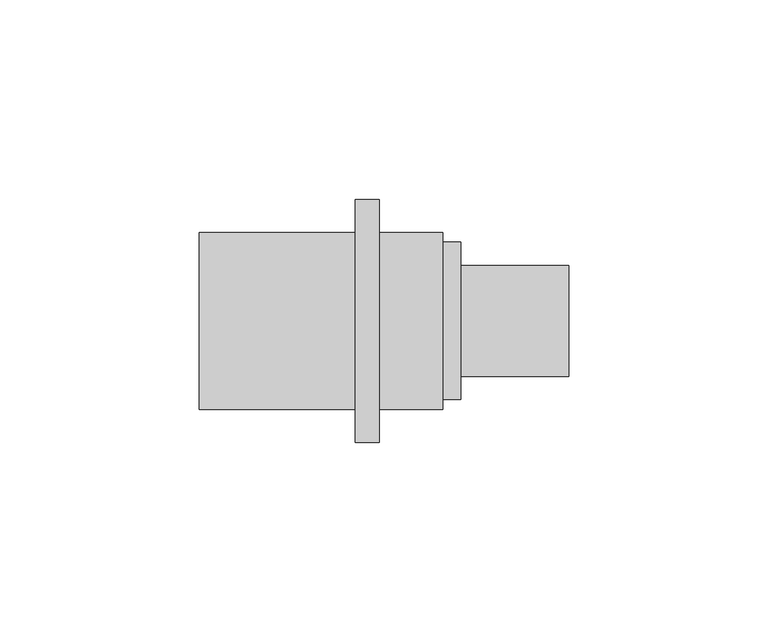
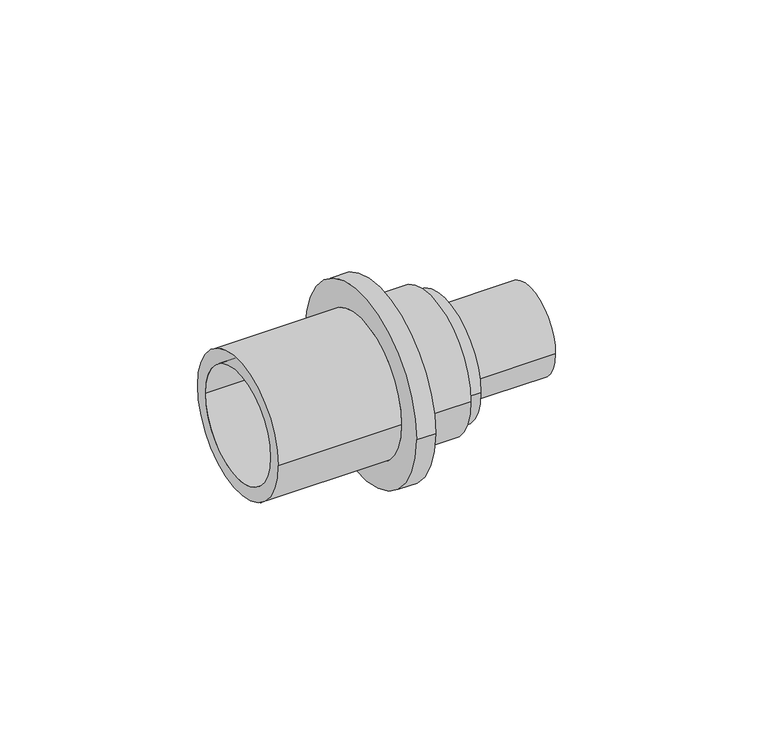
"""IFC4 building model written with IfcOpenShell, lengths in millimetres: pipe fitting geometry, Coupling transistion : C RE SDR11 LX."""

import ifcopenshell
import ifcopenshell.guid

model = None  # the IFC model being written
_history = None  # IfcOwnerHistory: only IFC2X3 demands one
_inside = {}  # id of a spatial element -> (the spatial element, [elements in it])
_under = {}  # id of a project, library or spatial element -> (it, [spatial elements below it])
_declared = {}  # id of a project -> (the project, [libraries it declares])
_typed = {}  # id of a type object -> (the type object, [elements of that type])
_made_of = {}  # id of a material, layer set ... -> (it, [elements and type objects made of it])


def new_model(schema):
    """Start an empty IFC model of exactly this schema.

    Asked for "IFC4X3", IfcOpenShell would pick the latest addendum, in which some entities
    have other attributes; the version numbers below select the first issue.
    IFC2X3 requires an IfcOwnerHistory on every rooted entity: one is made here for all.
    """
    global model, _history
    if schema == "IFC4X3":
        model = ifcopenshell.file(schema_version=(4, 3, 0, 0))
    else:
        model = ifcopenshell.file(schema=schema)
    _inside.clear()
    _under.clear()
    _declared.clear()
    _typed.clear()
    _made_of.clear()
    _history = None
    if model.schema == "IFC2X3":
        org = make("IfcOrganization", Name="unknown")
        user = make(
            "IfcPersonAndOrganization",
            ThePerson=make("IfcPerson", FamilyName="unknown"),
            TheOrganization=org,
        )
        app = make(
            "IfcApplication",
            ApplicationDeveloper=org,
            Version="unknown",
            ApplicationFullName="unknown",
            ApplicationIdentifier="unknown",
        )
        _history = make(
            "IfcOwnerHistory",
            OwningUser=user,
            OwningApplication=app,
            ChangeAction="ADDED",
            CreationDate=0,
        )
    return model


def make(cls, **values):
    """One entity of the class cls with the attributes given. An attribute that is None is left unset."""
    return model.create_entity(
        cls, **{name: value for name, value in values.items() if value is not None}
    )


def rooted(cls, **values):
    """An entity with a GlobalId (a new one), such as an element, a storey or a relation."""
    return make(cls, GlobalId=ifcopenshell.guid.new(), OwnerHistory=_history, **values)


def si_unit(unit_type, name, prefix=None):
    """IfcSIUnit, for example si_unit("LENGTHUNIT", "METRE", prefix="MILLI")."""
    return make("IfcSIUnit", UnitType=unit_type, Prefix=prefix, Name=name)


def assignment(units):
    """IfcUnitAssignment: the units of a project."""
    return None if units is None else make("IfcUnitAssignment", Units=units)


def point(xyz):
    """IfcCartesianPoint."""
    return None if xyz is None else make("IfcCartesianPoint", Coordinates=xyz)


def direction(xyz):
    """IfcDirection."""
    return None if xyz is None else make("IfcDirection", DirectionRatios=xyz)


def frame(location, z_axis=None, x_axis=None):
    """IfcAxis2Placement3D, a coordinate frame: its origin and axes. An axis left out is left unset."""
    return make(
        "IfcAxis2Placement3D",
        Location=point(location),
        Axis=direction(z_axis),
        RefDirection=direction(x_axis),
    )


def origin():
    """The frame at (0, 0, 0) with its axes left unset."""
    return frame((0.0, 0.0, 0.0))


def place(relative_to, where):
    """IfcLocalPlacement: puts the frame where relative to a parent placement (None: the world)."""
    return make(
        "IfcLocalPlacement", PlacementRelTo=relative_to, RelativePlacement=where
    )


def context(
    kind, dimensions, precision=None, world=None, true_north=None, identifier=None
):
    """IfcGeometricRepresentationContext, for example the 3D "Model" context."""
    return make(
        "IfcGeometricRepresentationContext",
        ContextIdentifier=identifier,
        ContextType=kind,
        CoordinateSpaceDimension=dimensions,
        Precision=precision,
        WorldCoordinateSystem=world,
        TrueNorth=true_north,
    )


def project(units=None, contexts=None):
    """IfcProject with its units and contexts."""
    return rooted(
        "IfcProject",
        Name="project",
        RepresentationContexts=contexts,
        UnitsInContext=assignment(units),
    )


def spatial(cls, under=None, at=None, **own):
    """A site, building, storey or space (cls), placed at a placement, below another one or the project."""
    s = rooted(cls, ObjectPlacement=at, **own)
    if under is not None:
        _under.setdefault(under.id(), (under, []))[1].append(s)
    return s


def polyline(points):
    """IfcPolyline through the points."""
    return make("IfcPolyline", Points=[point(p) for p in points])


def circle_curve(where, radius):
    """IfcCircle in the frame where."""
    return make("IfcCircle", Position=where, Radius=radius)


def shape(context_of_items, identifier, shape_type, items):
    """IfcShapeRepresentation: the items that make up one representation, for example the "Body"."""
    return make(
        "IfcShapeRepresentation",
        ContextOfItems=context_of_items,
        RepresentationIdentifier=identifier,
        RepresentationType=shape_type,
        Items=items,
    )


def source(mapping_origin, context_of_items, identifier, shape_type, items):
    """IfcRepresentationMap: a shape defined once, which mapped items show again and again."""
    return make(
        "IfcRepresentationMap",
        MappingOrigin=mapping_origin,
        MappedRepresentation=shape(context_of_items, identifier, shape_type, items),
    )


def transform(
    local_origin,
    x_axis=None,
    y_axis=None,
    z_axis=None,
    scale=None,
    scale2=None,
    scale3=None,
    uniform=True,
):
    """IfcCartesianTransformationOperator3D, or its non-uniform kind. x_axis, y_axis, z_axis: its Axis1, 2, 3."""
    if uniform:
        return make(
            "IfcCartesianTransformationOperator3D",
            Axis1=direction(x_axis),
            Axis2=direction(y_axis),
            LocalOrigin=point(local_origin),
            Scale=scale,
            Axis3=direction(z_axis),
        )
    return make(
        "IfcCartesianTransformationOperator3DnonUniform",
        Axis1=direction(x_axis),
        Axis2=direction(y_axis),
        LocalOrigin=point(local_origin),
        Scale=scale,
        Axis3=direction(z_axis),
        Scale2=scale2,
        Scale3=scale3,
    )


def mapped(mapping_source, mapping_target):
    """IfcMappedItem: shows the shape of a source again, moved by a transform."""
    return make(
        "IfcMappedItem", MappingSource=mapping_source, MappingTarget=mapping_target
    )


def made_of(thing, what):
    """Note that an element or type object is made of a material, layer set ...; save() writes the relation."""
    if what is not None:
        _made_of.setdefault(what.id(), (what, []))[1].append(thing)
    return thing


def element(
    cls,
    number,
    at=None,
    inside=None,
    cuts=None,
    type_object=None,
    material=None,
    context=None,
    identifier="Body",
    shape_type=None,
    held_by="IfcProductDefinitionShape",
    body=None,
    shapes=None,
    **own,
):
    """One element of the class cls, such as IfcWall. Its Tag is "e" and its number.

    at: its placement. inside: the storey or other place that contains it. cuts: it is an
    opening in that element (IfcRelVoidsElement). A single representation is given by context,
    identifier, shape_type and body (its items); several are given by shapes. held_by: the class
    of the entity that holds the representations. save() writes the other relations.
    """
    e = rooted(cls, Tag="e%d" % number, ObjectPlacement=at, **own)
    if body is not None:
        shapes = [shape(context, identifier, shape_type, body)]
    if shapes is not None:
        e.Representation = make(held_by, Representations=shapes)
    if inside is not None:
        _inside.setdefault(inside.id(), (inside, []))[1].append(e)
    if cuts is not None:
        rooted(
            "IfcRelVoidsElement", RelatingBuildingElement=cuts, RelatedOpeningElement=e
        )
    if type_object is not None:
        _typed.setdefault(type_object.id(), (type_object, []))[1].append(e)
    return made_of(e, material)


def aggregate(whole, parts):
    """IfcRelAggregates: a whole, such as a stair, and the parts it consists of."""
    return rooted("IfcRelAggregates", RelatingObject=whole, RelatedObjects=parts)


def save(model, path):
    """Write the relations noted so far, then the file.

    IfcRelAggregates (storeys below a building ...), IfcRelContainedInSpatialStructure (elements
    in a storey), IfcRelDefinesByType, IfcRelAssociatesMaterial and IfcRelDeclares: one each for
    every whole, place, type object, material and project.
    """
    for whole, parts in _under.values():
        aggregate(whole, parts)
    for where, things in _inside.values():
        rooted(
            "IfcRelContainedInSpatialStructure",
            RelatedElements=things,
            RelatingStructure=where,
        )
    for kind, things in _typed.values():
        rooted("IfcRelDefinesByType", RelatedObjects=things, RelatingType=kind)
    for what, things in _made_of.values():
        rooted("IfcRelAssociatesMaterial", RelatedObjects=things, RelatingMaterial=what)
    for by, libraries in _declared.values():
        rooted("IfcRelDeclares", RelatingContext=by, RelatedDefinitions=libraries)
    model.write(path)


def plane_surface(at):
    """IfcPlane: the flat surface through the origin of the frame at, square to its z axis."""
    return make("IfcPlane", Position=at)


def cylinder_surface(at, radius):
    """IfcCylindricalSurface: all points at the distance radius from the z axis of the frame at."""
    return make("IfcCylindricalSurface", Position=at, Radius=radius)


def revolved_surface(curve, axis_point, axis_direction):
    """IfcSurfaceOfRevolution: the curve turned about the line through axis_point along axis_direction."""
    return make(
        "IfcSurfaceOfRevolution",
        SweptCurve=make("IfcArbitraryOpenProfileDef", ProfileType="CURVE", Curve=curve),
        AxisPosition=make("IfcAxis1Placement", Location=point(axis_point), Axis=direction(axis_direction)),
    )


def advanced_brep(points, edges, surfaces, faces):
    """IfcAdvancedBrep: a solid bounded by faces that lie on surfaces and meet in shared edges.

    An edge is (start, end): straight between two places in points (the first is 0);
    or (start, end, curve); or (start, end, curve, False) where it runs against its curve.
    A face is (place in surfaces, loops), or (place, loops, False) where it looks against
    its surface's normal. A loop lists edges by number (the first is 1), with a minus sign
    where the edge is run from its end to its start. The first loop is the outer one.
    """
    corners = [point(p) for p in points]
    vertices = [make("IfcVertexPoint", VertexGeometry=c) for c in corners]
    made = []
    for start, end, *more in edges:
        made.append(
            make(
                "IfcEdgeCurve",
                EdgeStart=vertices[start],
                EdgeEnd=vertices[end],
                EdgeGeometry=more[0] if more else make("IfcPolyline", Points=[corners[start], corners[end]]),
                SameSense=more[1] if len(more) > 1 else True,
            )
        )
    hull = []
    for where, loops, *sense in faces:
        bounds = []
        for j, loop in enumerate(loops):
            ring = [make("IfcOrientedEdge", EdgeElement=made[abs(k) - 1], Orientation=k > 0) for k in loop]
            bounds.append(
                make(
                    "IfcFaceOuterBound" if j == 0 else "IfcFaceBound",
                    Bound=make("IfcEdgeLoop", EdgeList=ring),
                    Orientation=True,
                )
            )
        hull.append(make("IfcAdvancedFace", Bounds=bounds, FaceSurface=surfaces[where], SameSense=sense[0] if sense else True))
    return make("IfcAdvancedBrep", Outer=make("IfcClosedShell", CfsFaces=hull))


def pipe_fitting_c9fbcce2(model_context):
    return source(origin(), model_context, "Body", "AdvancedBrep", [
        advanced_brep(
        [(-13.0, 22.15, 0.0), (-13.0, -22.15, 0.0), (-52.0, -22.15, 0.0), (-52.0, 22.15, 0.0), (-7.0, 30.5, 0.0), (-7.0, -30.5, 0.0), (-13.0, -30.5, 0.0), (-13.0, 30.5, 0.0), (9.0, 22.15, 0.0), (9.0, -22.15, 0.0), (-7.0, -22.15, 0.0), (-7.0, 22.15, 0.0), (13.5, 19.75, 0.0), (13.5, -19.75, 0.0), (9.0, -19.75, 0.0), (9.0, 19.75, 0.0), (40.5, 13.95, 0.0), (40.5, -13.95, 0.0), (13.5, -13.95, 0.0), (13.5, 13.95, 0.0), (0.0, 11.2, 0.0), (0.0, -11.2, 0.0), (40.5, -11.2, 0.0), (40.5, 11.2, 0.0), (-52.0, 17.75, 0.0), (-52.0, -17.75, 0.0), (0.0, -17.75, 0.0), (0.0, 17.75, 0.0)],
        [
            (0, 1, circle_curve(frame((-13.0, 0.0, 0.0), z_axis=(-1.0, 0.0, 0.0), x_axis=(0.0, -1.0, 0.0)), 22.15)),
            (1, 2),
            (2, 3, circle_curve(frame((-52.0, 0.0, 0.0), z_axis=(1.0, 0.0, 0.0), x_axis=(0.0, -1.0, 0.0)), 22.15)),
            (3, 0),
            (4, 5, circle_curve(frame((-7.0, 0.0, 0.0), z_axis=(-1.0, 0.0, 0.0), x_axis=(0.0, -1.0, 0.0)), 30.5)),
            (5, 6),
            (6, 7, circle_curve(frame((-13.0, 0.0, 0.0), z_axis=(1.0, 0.0, 0.0), x_axis=(0.0, -1.0, 0.0)), 30.5)),
            (7, 4),
            (8, 9, circle_curve(frame((9.0, 0.0, 0.0), z_axis=(-1.0, 0.0, 0.0), x_axis=(0.0, -1.0, 0.0)), 22.15)),
            (9, 10),
            (10, 11, circle_curve(frame((-7.0, 0.0, 0.0), z_axis=(1.0, 0.0, 0.0), x_axis=(0.0, -1.0, 0.0)), 22.15)),
            (11, 8),
            (12, 13, circle_curve(frame((13.5, 0.0, 0.0), z_axis=(-1.0, 0.0, 0.0), x_axis=(0.0, -1.0, 0.0)), 19.75)),
            (13, 14),
            (14, 15, circle_curve(frame((9.0, 0.0, 0.0), z_axis=(1.0, 0.0, 0.0), x_axis=(0.0, -1.0, 0.0)), 19.75)),
            (15, 12),
            (16, 17, circle_curve(frame((40.5, 0.0, 0.0), z_axis=(-1.0, 0.0, 0.0), x_axis=(0.0, -1.0, 0.0)), 13.95)),
            (17, 18),
            (18, 19, circle_curve(frame((13.5, 0.0, 0.0), z_axis=(1.0, 0.0, 0.0), x_axis=(0.0, -1.0, 0.0)), 13.95)),
            (19, 16),
            (20, 21, circle_curve(frame((0.0, 0.0, 0.0), z_axis=(-1.0, 0.0, 0.0), x_axis=(0.0, -1.0, 0.0)), 11.2)),
            (21, 22),
            (22, 23, circle_curve(frame((40.5, 0.0, 0.0), z_axis=(1.0, 0.0, 0.0), x_axis=(0.0, -1.0, 0.0)), 11.2)),
            (23, 20),
            (24, 25, circle_curve(frame((-52.0, 0.0, 0.0), z_axis=(-1.0, 0.0, 0.0), x_axis=(0.0, -1.0, 0.0)), 17.75)),
            (25, 26),
            (26, 27, circle_curve(frame((0.0, 0.0, 0.0), z_axis=(1.0, 0.0, 0.0), x_axis=(0.0, -1.0, 0.0)), 17.75)),
            (27, 24),
            (2, 3, circle_curve(frame((-52.0, 0.0, 0.0), z_axis=(-1.0, 0.0, 0.0), x_axis=(0.0, 1.0, 0.0)), 22.15)),
            (24, 25, circle_curve(frame((-52.0, 0.0, 0.0), z_axis=(1.0, 0.0, 0.0), x_axis=(0.0, 1.0, 0.0)), 17.75)),
            (1, 0, circle_curve(frame((-13.0, 0.0, 0.0), z_axis=(-1.0, 0.0, 0.0), x_axis=(0.0, 1.0, 0.0)), 22.15)),
            (6, 7, circle_curve(frame((-13.0, 0.0, 0.0), z_axis=(-1.0, 0.0, 0.0), x_axis=(0.0, 1.0, 0.0)), 30.5)),
            (5, 4, circle_curve(frame((-7.0, 0.0, 0.0), z_axis=(-1.0, 0.0, 0.0), x_axis=(0.0, 1.0, 0.0)), 30.5)),
            (10, 11, circle_curve(frame((-7.0, 0.0, 0.0), z_axis=(-1.0, 0.0, 0.0), x_axis=(0.0, 1.0, 0.0)), 22.15)),
            (9, 8, circle_curve(frame((9.0, 0.0, 0.0), z_axis=(-1.0, 0.0, 0.0), x_axis=(0.0, 1.0, 0.0)), 22.15)),
            (14, 15, circle_curve(frame((9.0, 0.0, 0.0), z_axis=(-1.0, 0.0, 0.0), x_axis=(0.0, 1.0, 0.0)), 19.75)),
            (13, 12, circle_curve(frame((13.5, 0.0, 0.0), z_axis=(-1.0, 0.0, 0.0), x_axis=(0.0, 1.0, 0.0)), 19.75)),
            (18, 19, circle_curve(frame((13.5, 0.0, 0.0), z_axis=(-1.0, 0.0, 0.0), x_axis=(0.0, 1.0, 0.0)), 13.95)),
            (17, 16, circle_curve(frame((40.5, 0.0, 0.0), z_axis=(-1.0, 0.0, 0.0), x_axis=(0.0, 1.0, 0.0)), 13.95)),
            (22, 23, circle_curve(frame((40.5, 0.0, 0.0), z_axis=(-1.0, 0.0, 0.0), x_axis=(0.0, 1.0, 0.0)), 11.2)),
            (21, 20, circle_curve(frame((0.0, 0.0, 0.0), z_axis=(-1.0, 0.0, 0.0), x_axis=(0.0, 1.0, 0.0)), 11.2)),
            (26, 27, circle_curve(frame((0.0, 0.0, 0.0), z_axis=(-1.0, 0.0, 0.0), x_axis=(0.0, 1.0, 0.0)), 17.75)),
        ],
        [
            cylinder_surface(frame((0.0, 0.0, 0.0), z_axis=(1.0, 0.0, 0.0), x_axis=(0.0, -1.0, 0.0)), 22.15),
            cylinder_surface(frame((0.0, 0.0, 0.0), z_axis=(1.0, 0.0, 0.0), x_axis=(0.0, -1.0, 0.0)), 30.5),
            cylinder_surface(frame((0.0, 0.0, 0.0), z_axis=(1.0, 0.0, 0.0), x_axis=(0.0, -1.0, 0.0)), 19.75),
            cylinder_surface(frame((0.0, 0.0, 0.0), z_axis=(1.0, 0.0, 0.0), x_axis=(0.0, -1.0, 0.0)), 13.95),
            revolved_surface(polyline([(40.5, -11.2, 0.0), (0.0, -11.2, 0.0)]), (0.0, 0.0, 0.0), (1.0, 0.0, 0.0)),
            revolved_surface(polyline([(0.0, -17.75, 0.0), (-52.0, -17.75, 0.0)]), (0.0, 0.0, 0.0), (1.0, 0.0, 0.0)),
            plane_surface(frame((-52.0, 0.0, 0.0), z_axis=(-1.0, 0.0, 0.0), x_axis=(0.0, 1.0, 0.0))),
            cylinder_surface(frame((0.0, 0.0, 0.0), z_axis=(1.0, 0.0, 0.0), x_axis=(0.0, 1.0, 0.0)), 22.15),
            plane_surface(frame((-13.0, 0.0, 0.0), z_axis=(-1.0, 0.0, 0.0), x_axis=(0.0, 1.0, 0.0))),
            cylinder_surface(frame((0.0, 0.0, 0.0), z_axis=(1.0, 0.0, 0.0), x_axis=(0.0, 1.0, 0.0)), 30.5),
            plane_surface(frame((-7.0, 0.0, 0.0), z_axis=(1.0, 0.0, 0.0), x_axis=(0.0, 1.0, 0.0))),
            plane_surface(frame((9.0, 0.0, 0.0), z_axis=(1.0, 0.0, 0.0), x_axis=(0.0, 1.0, 0.0))),
            cylinder_surface(frame((0.0, 0.0, 0.0), z_axis=(1.0, 0.0, 0.0), x_axis=(0.0, 1.0, 0.0)), 19.75),
            plane_surface(frame((13.5, 0.0, 0.0), z_axis=(1.0, 0.0, 0.0), x_axis=(0.0, 1.0, 0.0))),
            cylinder_surface(frame((0.0, 0.0, 0.0), z_axis=(1.0, 0.0, 0.0), x_axis=(0.0, 1.0, 0.0)), 13.95),
            plane_surface(frame((40.5, 0.0, 0.0), z_axis=(1.0, 0.0, 0.0), x_axis=(0.0, 1.0, 0.0))),
            revolved_surface(polyline([(40.5, 11.2, 0.0), (0.0, 11.2, 0.0)]), (0.0, 0.0, 0.0), (1.0, 0.0, 0.0)),
            plane_surface(frame((0.0, 0.0, 0.0), z_axis=(-1.0, 0.0, 0.0), x_axis=(0.0, 1.0, 0.0))),
            revolved_surface(polyline([(0.0, 17.75, 0.0), (-52.0, 17.75, 0.0)]), (0.0, 0.0, 0.0), (1.0, 0.0, 0.0)),
        ],
        [
            (0, [[1, 2, 3, 4]]),
            (1, [[5, 6, 7, 8]]),
            (0, [[9, 10, 11, 12]]),
            (2, [[13, 14, 15, 16]]),
            (3, [[17, 18, 19, 20]]),
            (4, [[21, 22, 23, 24]]),
            (5, [[25, 26, 27, 28]]),
            (6, [[29, -3], [30, -25]]),
            (7, [[31, -4, -29, -2]]),
            (8, [[32, -7], [-31, -1]]),
            (9, [[33, -8, -32, -6]]),
            (10, [[-33, -5], [34, -11]]),
            (7, [[35, -12, -34, -10]]),
            (11, [[-35, -9], [36, -15]]),
            (12, [[37, -16, -36, -14]]),
            (13, [[-37, -13], [38, -19]]),
            (14, [[39, -20, -38, -18]]),
            (15, [[-39, -17], [40, -23]]),
            (16, [[41, -24, -40, -22]]),
            (17, [[42, -27], [-41, -21]]),
            (18, [[-30, -28, -42, -26]]),
        ],
    ),
    ])


if __name__ == "__main__":
    model = new_model("IFC4")
    model_context = context("Model", 3, world=origin())
    ifc_project = project(units=[si_unit("LENGTHUNIT", "METRE", prefix="MILLI")], contexts=[model_context])
    site = spatial("IfcSite", under=ifc_project)
    building = spatial("IfcBuilding", under=site)
    placement = place(None, origin())
    pipe_fitting_shape = pipe_fitting_c9fbcce2(model_context)
    element("IfcPipeFitting", 1, ObjectType="Coupling transistion : C RE SDR11 LX", at=placement, inside=building, context=model_context, shape_type="MappedRepresentation", body=[
        mapped(pipe_fitting_shape, transform((0.0, 0.0, 0.0), x_axis=(1.0, 0.0, 0.0), y_axis=(0.0, 1.0, 0.0), z_axis=(0.0, 0.0, 1.0))),
    ])
    save(model, "model.ifc")
